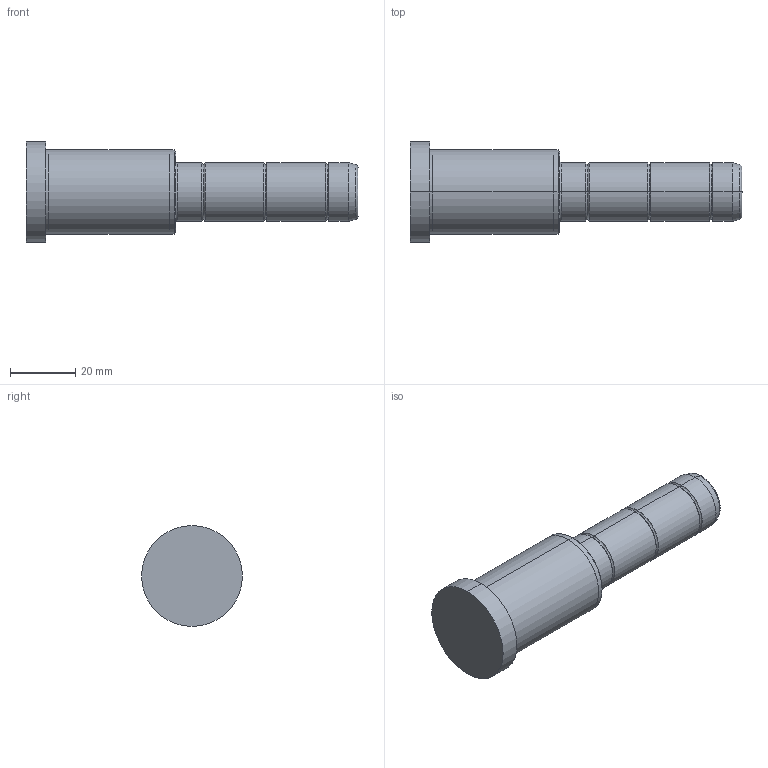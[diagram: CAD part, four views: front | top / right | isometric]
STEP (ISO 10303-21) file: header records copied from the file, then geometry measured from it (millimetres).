
FILE_DESCRIPTION( ( 'STEP AP203' ), '1' );
FILE_NAME( 'C:/Projects/D02 - 18x46x56.step', '2003-01-04T13:31:35', ( ' ' ), ( ' ' ), 'XStep 1.0', ' ', ' ' );
FILE_SCHEMA( ( 'CONFIG_CONTROL_DESIGN' ) );
Length unit declared in the file: metre
Products named in the file (1): 1
Bounding box: 102 x 31 x 31 mm (x, y, z)
Volume: 39902.3 mm3; surface area: 8525.8 mm2
Topology: 1 solids, 1 shells, 42 faces, 82 edges, 46 vertices
Faces by surface type: bspline 22, revolution 20
Entity records: 1325 total; most frequent: CARTESIAN_POINT 517, ORIENTED_EDGE 164, DIRECTION 134, EDGE_CURVE 82, AXIS2_PLACEMENT_3D 47, EDGE_LOOP 46, VERTEX_POINT 46, CIRCLE 46
